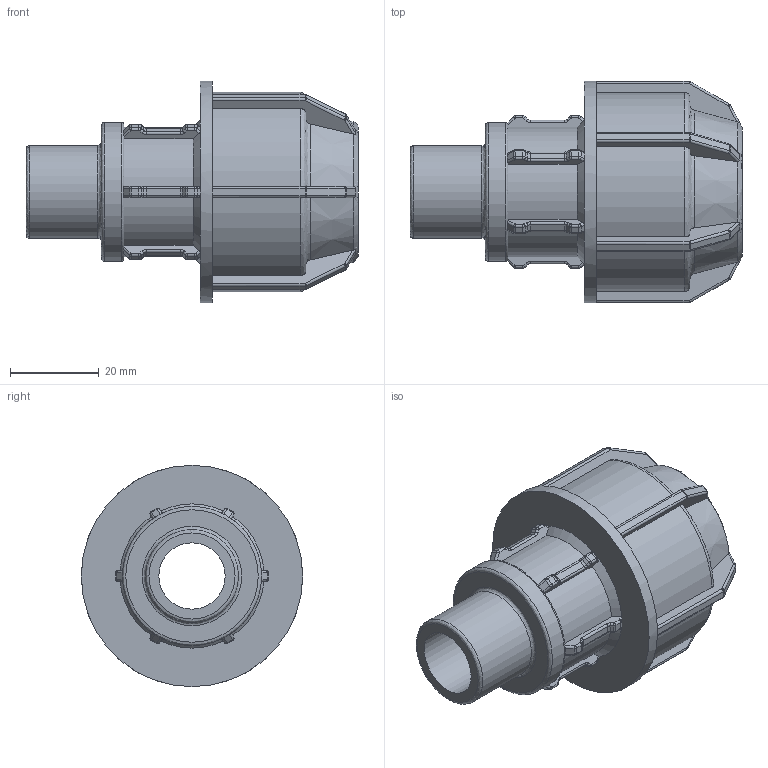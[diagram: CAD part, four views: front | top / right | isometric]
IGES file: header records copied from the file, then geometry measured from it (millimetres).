
Global section: file name: 140200025005.ipt; native system: Autodesk Inventor 2015; preprocessor: unknown; author: KIM; date: 20180409.130930; units: millimetre
Bounding box: 75 x 50 x 50 mm (x, y, z)
Volume: 43076.5 mm3; surface area: 17857 mm2
Topology: 1 solids, 1 shells, 471 faces, 1184 edges, 708 vertices
Faces by surface type: cylinder 171, plane 159, revolution 129, cone 12
Full cylindrical faces by diameter (mm): 20.955 x1, 31.433 x1, 50 x1
